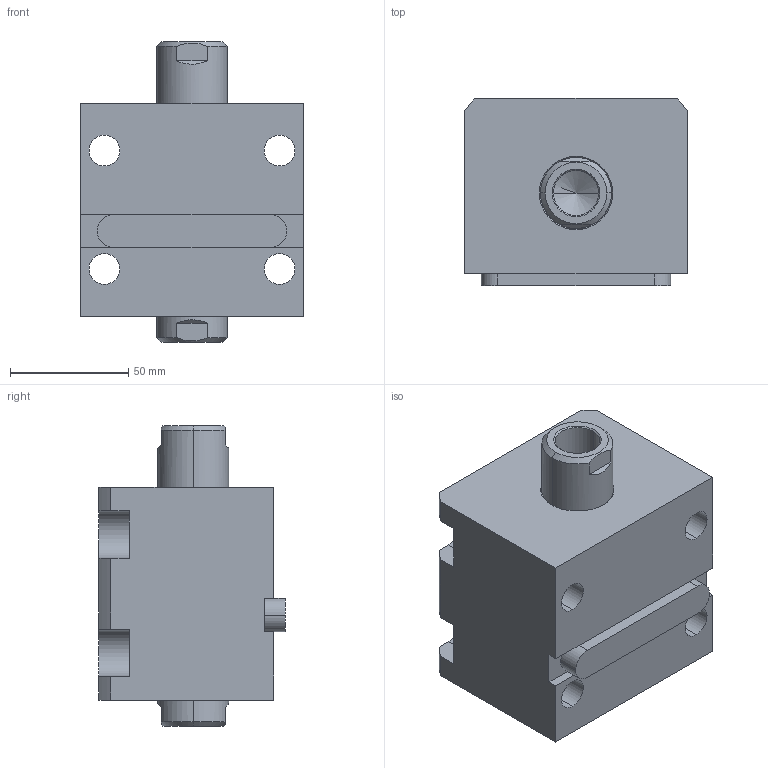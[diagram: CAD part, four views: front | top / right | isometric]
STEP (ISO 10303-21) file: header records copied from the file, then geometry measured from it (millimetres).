
FILE_DESCRIPTION (( 'STEP AP203' ), '1' );
FILE_NAME ('CHTB-LW50-15N.STEP', '2018-05-18T02:22:47', ( '' ), ( '' ), 'SwSTEP 2.0', 'SolidWorks 2015', '' );
FILE_SCHEMA (( 'CONFIG_CONTROL_DESIGN' ));
Length unit declared in the file: millimetre
Products named in the file (4): 掛极LW50-15N; 活塞杆LW50-15N; CHTM-SDMA50QG; CHTB-LW50-15N
Assembly tree (3 placements, depth 2):
  CHTB-LW50-15N
    掛极LW50-15N
    活塞杆LW50-15N
    CHTM-SDMA50QG
Bounding box: 94 x 79 x 127 mm (x, y, z)
Volume: 560861.5 mm3; surface area: 104306.4 mm2
Topology: 3 solids, 3 shells, 221 faces, 588 edges, 385 vertices
Faces by surface type: cylinder 102, plane 58, cone 31, torus 16, bspline 14
Entity records: 11831 total; most frequent: CARTESIAN_POINT 6126, ORIENTED_EDGE 1160, DIRECTION 1056, EDGE_CURVE 580, AXIS2_PLACEMENT_3D 416, VERTEX_POINT 385, EDGE_LOOP 257, LINE 224
